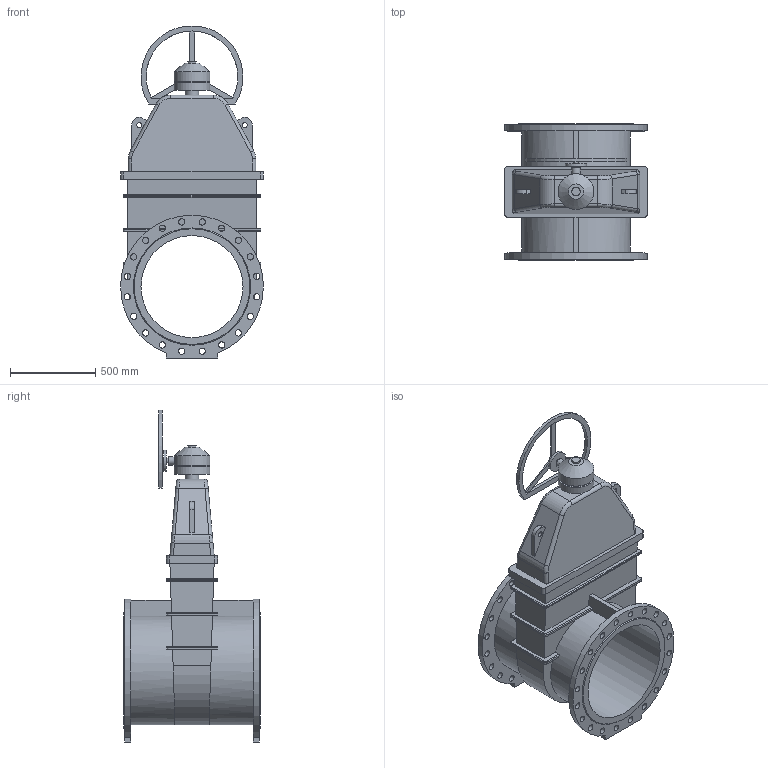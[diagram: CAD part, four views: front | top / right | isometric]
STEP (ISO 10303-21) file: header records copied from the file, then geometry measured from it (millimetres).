
FILE_DESCRIPTION(('STEP AP203'), '1');
FILE_NAME('Çàäâèæêà 47GV DN600 PN16_L800 + ðåäóêòîð ñ ìàõîâèêîì', '', ('UNSPECIFIED'), ('UNSPECIFIED'), 'ASCON STEP Converter 1.6', 'ASCON Math Kernel', '');
FILE_SCHEMA(('CONFIG_CONTROL_DESIGN'));
Length unit declared in the file: millimetre
Bounding box: 840 x 800 x 1952.91 mm (x, y, z)
Volume: 213725265.1 mm3; surface area: 6871658.7 mm2
Topology: 1 solids, 1 shells, 264 faces, 659 edges, 422 vertices
Faces by surface type: cylinder 121, plane 116, bspline 24, cone 3
Full cylindrical faces by diameter (mm): 17.5 x4, 20 x1, 22 x4, 30 x3, 37 x40, 50 x2, 60 x1, 80 x1, 125 x1, 190 x1, 210 x2, 600 x1
Entity records: 11827 total; most frequent: CARTESIAN_POINT 3570, DIRECTION 1206, ORIENTED_EDGE 1190, EDGE_CURVE 595, AXIS2_PLACEMENT_3D 452, EDGE_LOOP 446, VERTEX_POINT 422, FACE_BOUND 321
